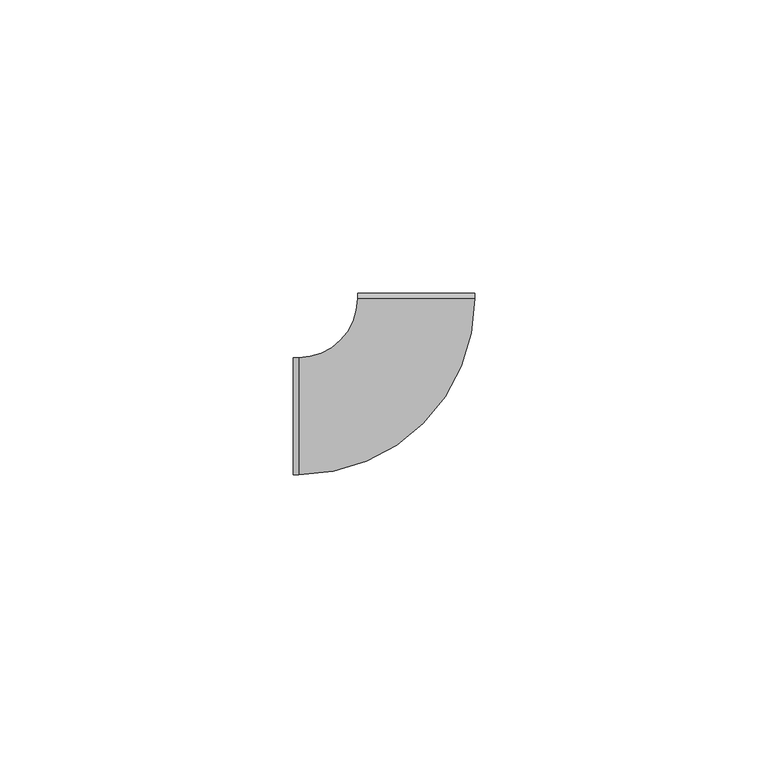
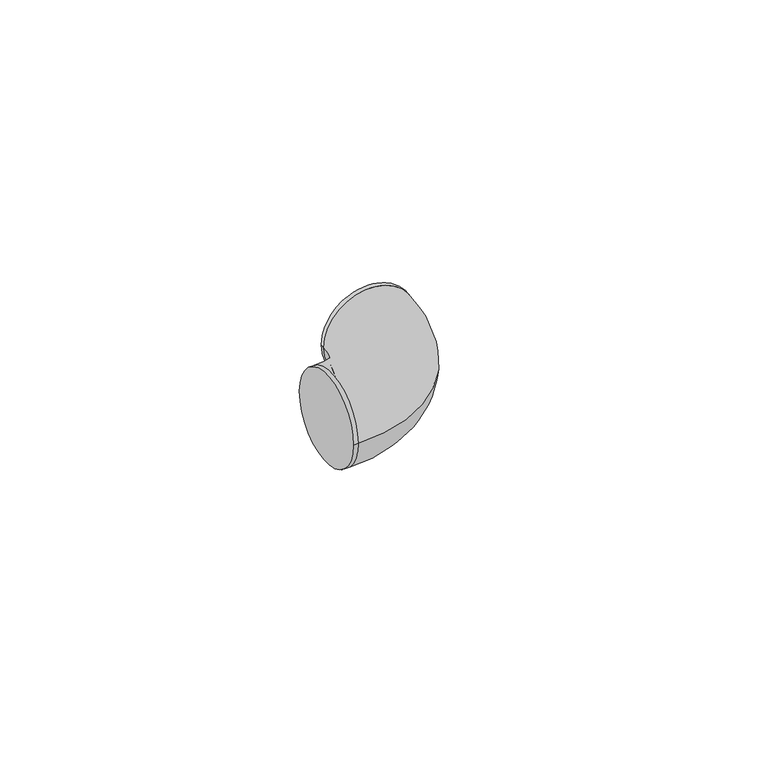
"""IFC4 building model written with IfcOpenShell, lengths in millimetres: cable carrier fitting geometry, ADSK_Поворот_Минимальный размер : Неспецифицируемый."""

from ifc_helpers import new_model, si_unit, point, frame, origin, place, context, project, spatial, circle_curve, ellipse_curve, trimmed, source, transform, mapped, element, save
from ifc_brep_helpers import plane_surface, cylinder_surface, revolved_surface, advanced_brep


def cable_carrier_fitting_57fcd6e6(model_context):
    return source(origin(), model_context, "Body", "AdvancedBrep", [
        advanced_brep(
        [(-21.0008335, -10.0, 0.0), (-21.0008335, 10.0, 0.0), (-20.0008335, -10.0, 0.0), (-20.0008335, 10.0, 0.0), (-10.0008335, 20.0004168, 0.0), (9.9991664, 20.0012503, 0.0), (9.9991248, 21.0012503, 0.0), (-10.0008752, 21.0004168, 0.0)],
        [
            (0, 1, circle_curve(frame((-21.0008335, 0.0, 0.0), z_axis=(-1.0, -4.92260399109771e-12, 0.0), x_axis=(-4.92260399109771e-12, 1.0, 0.0)), 10.0)),
            (1, 0, circle_curve(frame((-21.0008335, 0.0, 0.0), z_axis=(-1.0, -4.92260399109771e-12, 0.0), x_axis=(-4.92260399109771e-12, 1.0, 0.0)), 10.0)),
            (0, 2),
            (2, 3, circle_curve(frame((-20.0008335, 0.0, 0.0), z_axis=(-1.0, -4.92260399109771e-12, 0.0), x_axis=(-4.92260399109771e-12, 1.0, 0.0)), 10.0)),
            (3, 1),
            (3, 2, circle_curve(frame((-20.0008335, 0.0, 0.0), z_axis=(-1.0, -4.92260399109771e-12, 0.0), x_axis=(-4.92260399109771e-12, 1.0, 0.0)), 10.0)),
            (4, 3, circle_curve(frame((-20.0008335, 20.0, 0.0), z_axis=(0.0, 0.0, -1.0), x_axis=(0.0, -1.0, 0.0)), 10.0)),
            (2, 5, circle_curve(frame((-20.0008335, 20.0, 0.0), z_axis=(0.0, 0.0, 1.0), x_axis=(0.0, -1.0, 0.0)), 30.0)),
            (5, 4, circle_curve(frame((-0.0008336, 20.0008335, 0.0), z_axis=(4.1676149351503e-05, -0.9999999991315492, 0.0), x_axis=(-0.9999999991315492, -4.1676149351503e-05, 0.0)), 10.0)),
            (4, 5, circle_curve(frame((-0.0008336, 20.0008335, 0.0), z_axis=(4.1676149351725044e-05, -0.9999999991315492, 0.0), x_axis=(-0.9999999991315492, -4.1676149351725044e-05, 0.0)), 10.0)),
            (6, 7, circle_curve(frame((-0.0008752, 21.0008335, 0.0), z_axis=(-4.167614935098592e-05, 0.9999999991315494, 0.0), x_axis=(-0.9999999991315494, -4.167614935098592e-05, 0.0)), 10.0)),
            (7, 6, circle_curve(frame((-0.0008752, 21.0008335, 0.0), z_axis=(-4.167614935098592e-05, 0.9999999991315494, 0.0), x_axis=(-0.9999999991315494, -4.167614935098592e-05, 0.0)), 10.0)),
            (5, 6),
            (7, 4),
        ],
        [
            plane_surface(frame((-21.0008335, 0.0, 0.0), z_axis=(-1.0, -4.92260399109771e-12, 0.0), x_axis=(0.0, 0.0, 1.0))),
            cylinder_surface(frame((-21.0008335, 0.0, 0.0), z_axis=(-1.0, -4.92260399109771e-12, 0.0), x_axis=(-4.92260399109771e-12, 1.0, 0.0)), 10.0),
            revolved_surface(trimmed(ellipse_curve(frame((-20.0008335, 0.0, 0.0), z_axis=(-1.0, 0.0, 0.0), x_axis=(0.0, 1.0, 0.0)), 10.0, 10.0), [point((-20.0008335, -10.0, 0.0))], [point((-20.0008335, 10.0, 0.0))], True, "CARTESIAN"), (-20.0008335, 20.0, 0.0), (0.0, 0.0, 1.0)),
            revolved_surface(trimmed(ellipse_curve(frame((-20.0008335, 0.0, 0.0), z_axis=(-1.0, 0.0, 0.0), x_axis=(0.0, 1.0, 0.0)), 10.0, 10.0), [point((-20.0008335, 10.0, 0.0))], [point((-20.0008335, -10.0, 0.0))], True, "CARTESIAN"), (-20.0008335, 20.0, 0.0), (0.0, 0.0, 1.0)),
            plane_surface(frame((-0.0008752, 21.0008335, 0.0), z_axis=(-4.1676149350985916e-05, 0.9999999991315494, 0.0), x_axis=(0.0, 0.0, 1.0))),
            cylinder_surface(frame((-0.0008336, 20.0008335, 0.0), z_axis=(4.167614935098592e-05, -0.9999999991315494, 0.0), x_axis=(-0.9999999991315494, -4.167614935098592e-05, 0.0)), 10.0),
        ],
        [
            (0, [[1, 2]]),
            (1, [[-1, 3, 4, 5]]),
            (1, [[-2, -5, 6, -3]]),
            (2, [[7, -4, 8, 9]]),
            (3, [[-8, -6, -7, 10]]),
            (4, [[11, 12]]),
            (5, [[-9, 13, -12, 14]]),
            (5, [[-10, -14, -11, -13]]),
        ],
    ),
    ])


if __name__ == "__main__":
    model = new_model("IFC4")
    model_context = context("Model", 3, world=origin())
    ifc_project = project(units=[si_unit("LENGTHUNIT", "METRE", prefix="MILLI")], contexts=[model_context])
    site = spatial("IfcSite", under=ifc_project)
    building = spatial("IfcBuilding", under=site)
    placement = place(None, origin())
    cable_carrier_fitting_shape = cable_carrier_fitting_57fcd6e6(model_context)
    element("IfcCableCarrierFitting", 1, ObjectType="ADSK_Поворот_Минимальный размер : Неспецифицируемый", at=placement, inside=building, context=model_context, shape_type="MappedRepresentation", body=[
        mapped(cable_carrier_fitting_shape, transform((0.0, 0.0, 0.0), x_axis=(1.0, 0.0, 0.0), y_axis=(0.0, 1.0, 0.0), z_axis=(0.0, 0.0, 1.0))),
    ])
    save(model, "model.ifc")
